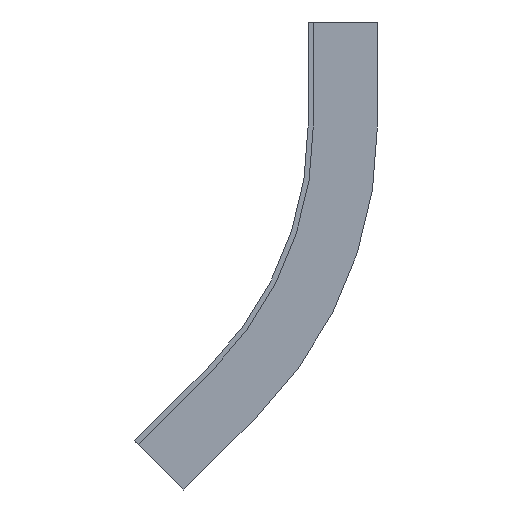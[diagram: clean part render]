
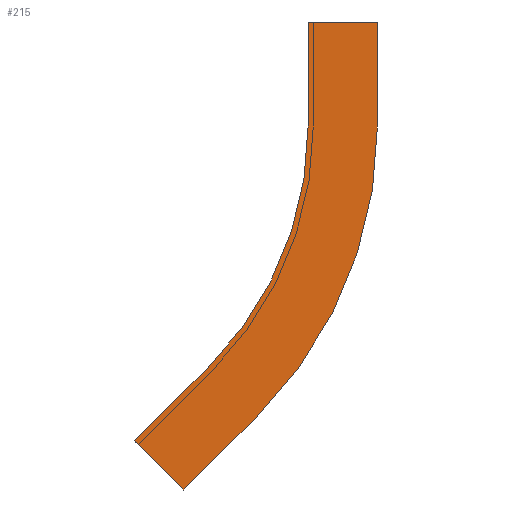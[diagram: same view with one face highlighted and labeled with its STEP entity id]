
A CAD part, left-side view. The second image highlights one B-rep face of the part: STEP entity #215.
In plain terms, the highlighted planar face has unit normal (-1, 0, 0).
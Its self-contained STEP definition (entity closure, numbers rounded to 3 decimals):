
#7 = DIRECTION ( 'NONE',  ( 0., -1., 0. ) ) ;
#8 = EDGE_CURVE ( 'NONE', #72, #295, #218, .T. ) ;
#22 = LINE ( 'NONE', #410, #813 ) ;
#30 = VECTOR ( 'NONE', #157, 1000. ) ;
#59 = ORIENTED_EDGE ( 'NONE', *, *, #212, .F. ) ;
#71 = CARTESIAN_POINT ( 'NONE',  ( -302., -20., -30. ) ) ;
#72 = VERTEX_POINT ( 'NONE', #414 ) ;
#92 = VECTOR ( 'NONE', #333, 1000. ) ;
#99 = ORIENTED_EDGE ( 'NONE', *, *, #147, .F. ) ;
#120 = LINE ( 'NONE', #404, #603 ) ;
#121 = AXIS2_PLACEMENT_3D ( 'NONE', #216, #155, #827 ) ;
#123 = DIRECTION ( 'NONE',  ( 0., 0., -1. ) ) ;
#130 = ORIENTED_EDGE ( 'NONE', *, *, #438, .F. ) ;
#133 = ORIENTED_EDGE ( 'NONE', *, *, #701, .F. ) ;
#138 = CARTESIAN_POINT ( 'NONE',  ( -302., 98.5, -30. ) ) ;
#147 = EDGE_CURVE ( 'NONE', #590, #480, #22, .T. ) ;
#155 = DIRECTION ( 'NONE',  ( 1., 0., 0. ) ) ;
#157 = DIRECTION ( 'NONE',  ( 0., 0., -1. ) ) ;
#159 = ORIENTED_EDGE ( 'NONE', *, *, #8, .F. ) ;
#179 = CARTESIAN_POINT ( 'NONE',  ( -302., 28.85, -99.65 ) ) ;
#199 = VERTEX_POINT ( 'NONE', #691 ) ;
#202 = LINE ( 'NONE', #355, #618 ) ;
#212 = EDGE_CURVE ( 'NONE', #836, #265, #437, .T. ) ;
#215 = ADVANCED_FACE ( 'NONE', ( #769 ), #555, .F. ) ;
#216 = CARTESIAN_POINT ( 'NONE',  ( -302., 98.5, -30. ) ) ;
#217 = CARTESIAN_POINT ( 'NONE',  ( -302., 0., 0. ) ) ;
#218 = CIRCLE ( 'NONE', #478, 98.5 ) ;
#221 = DIRECTION ( 'NONE',  ( 0., 0., 1. ) ) ;
#265 = VERTEX_POINT ( 'NONE', #384 ) ;
#267 = LINE ( 'NONE', #179, #92 ) ;
#295 = VERTEX_POINT ( 'NONE', #475 ) ;
#333 = DIRECTION ( 'NONE',  ( 0., -0.707, 0.707 ) ) ;
#355 = CARTESIAN_POINT ( 'NONE',  ( -302., -20., 0. ) ) ;
#384 = CARTESIAN_POINT ( 'NONE',  ( -302., 14.708, -113.792 ) ) ;
#404 = CARTESIAN_POINT ( 'NONE',  ( -302., 0., 0. ) ) ;
#410 = CARTESIAN_POINT ( 'NONE',  ( -302., 50.063, -120.863 ) ) ;
#414 = CARTESIAN_POINT ( 'NONE',  ( -302., 28.85, -99.65 ) ) ;
#437 = CIRCLE ( 'NONE', #772, 118.5 ) ;
#438 = EDGE_CURVE ( 'NONE', #199, #836, #498, .T. ) ;
#463 = CARTESIAN_POINT ( 'NONE',  ( -302., 98.5, -30. ) ) ;
#475 = CARTESIAN_POINT ( 'NONE',  ( -302., 0., -30. ) ) ;
#478 = AXIS2_PLACEMENT_3D ( 'NONE', #463, #727, #123 ) ;
#479 = LINE ( 'NONE', #614, #591 ) ;
#480 = VERTEX_POINT ( 'NONE', #816 ) ;
#498 = LINE ( 'NONE', #71, #30 ) ;
#548 = ORIENTED_EDGE ( 'NONE', *, *, #781, .F. ) ;
#550 = DIRECTION ( 'NONE',  ( 0., 0.707, -0.707 ) ) ;
#555 = PLANE ( 'NONE',  #121 ) ;
#556 = CARTESIAN_POINT ( 'NONE',  ( -302., -20., -30. ) ) ;
#590 = VERTEX_POINT ( 'NONE', #832 ) ;
#591 = VECTOR ( 'NONE', #550, 1000. ) ;
#603 = VECTOR ( 'NONE', #859, 1000. ) ;
#614 = CARTESIAN_POINT ( 'NONE',  ( -302., 35.921, -135.005 ) ) ;
#618 = VECTOR ( 'NONE', #7, 1000. ) ;
#645 = EDGE_LOOP ( 'NONE', ( #548, #133, #159, #720, #99, #656, #59, #130 ) ) ;
#656 = ORIENTED_EDGE ( 'NONE', *, *, #809, .F. ) ;
#657 = EDGE_CURVE ( 'NONE', #480, #72, #267, .T. ) ;
#677 = DIRECTION ( 'NONE',  ( 1., 0., 0. ) ) ;
#691 = CARTESIAN_POINT ( 'NONE',  ( -302., -20., 0. ) ) ;
#701 = EDGE_CURVE ( 'NONE', #295, #818, #120, .T. ) ;
#720 = ORIENTED_EDGE ( 'NONE', *, *, #657, .F. ) ;
#727 = DIRECTION ( 'NONE',  ( -1., 0., 0. ) ) ;
#742 = DIRECTION ( 'NONE',  ( 0., 0.707, 0.707 ) ) ;
#769 = FACE_OUTER_BOUND ( 'NONE', #645, .T. ) ;
#772 = AXIS2_PLACEMENT_3D ( 'NONE', #138, #677, #221 ) ;
#781 = EDGE_CURVE ( 'NONE', #818, #199, #202, .T. ) ;
#809 = EDGE_CURVE ( 'NONE', #265, #590, #479, .T. ) ;
#813 = VECTOR ( 'NONE', #742, 1000. ) ;
#816 = CARTESIAN_POINT ( 'NONE',  ( -302., 50.063, -120.863 ) ) ;
#818 = VERTEX_POINT ( 'NONE', #217 ) ;
#827 = DIRECTION ( 'NONE',  ( 0., 0., -1. ) ) ;
#832 = CARTESIAN_POINT ( 'NONE',  ( -302., 35.921, -135.005 ) ) ;
#836 = VERTEX_POINT ( 'NONE', #556 ) ;
#859 = DIRECTION ( 'NONE',  ( 0., 0., 1. ) ) ;
